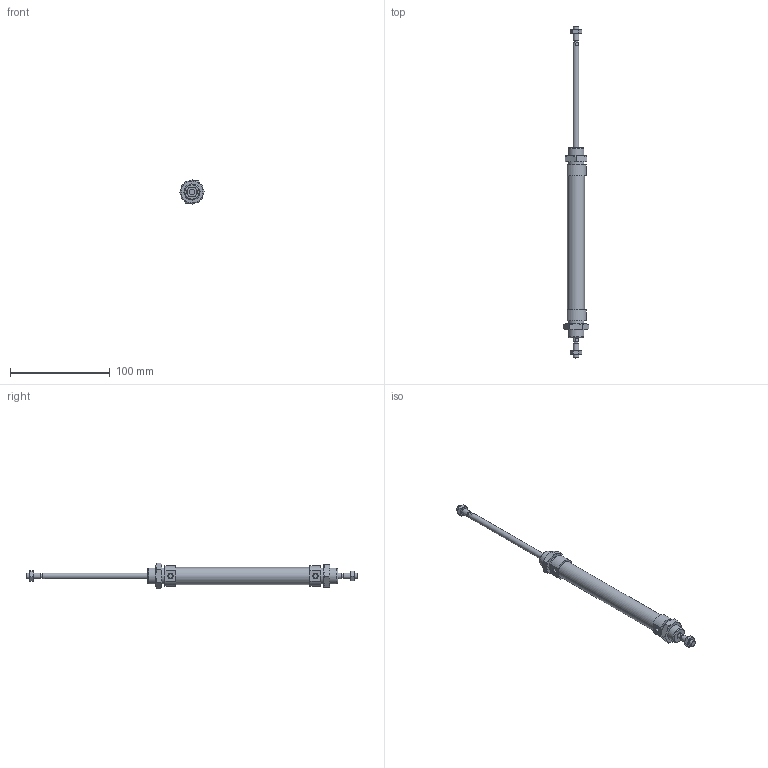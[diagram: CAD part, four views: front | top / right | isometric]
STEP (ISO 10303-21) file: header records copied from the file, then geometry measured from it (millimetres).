
FILE_DESCRIPTION((''),'2;1');
FILE_NAME('I:\Area Tecnica\Disegni\VARIE-3D\Componenti\1280\1282_##_####_#\1282_16_0100.iam.stp','2009-06-03T15:24:44',(''),(''),'Autodesk Inventor 2010','Autodesk Inventor 2010','');
FILE_SCHEMA(('AUTOMOTIVE_DESIGN { 1 0 10303 214 1 1 1 1 }'));
Length unit declared in the file: millimetre
Products named in the file (5): 1282_16_0100; C1282_16_100; S1282_16_100; 1200_16_05; 1200_16_06
Assembly tree (6 placements, depth 2):
  1282_16_0100
    C1282_16_100
    S1282_16_100
    1200_16_05  x2
    1200_16_06  x2
Bounding box: 25.4 x 332 x 25.4 mm (x, y, z)
Volume: 52594.3 mm3; surface area: 24149.1 mm2
Topology: 6 solids, 6 shells, 135 faces, 283 edges, 168 vertices
Faces by surface type: plane 56, cone 52, bspline 16, cylinder 11
Full cylindrical faces by diameter (mm): 5 x2, 6 x4, 16 x2, 17.2 x1
Entity records: 2543 total; most frequent: CARTESIAN_POINT 619, DIRECTION 358, ORIENTED_EDGE 316, AXIS2_PLACEMENT_3D 159, EDGE_CURVE 158, EDGE_LOOP 124, VERTEX_POINT 106, STYLED_ITEM 93
